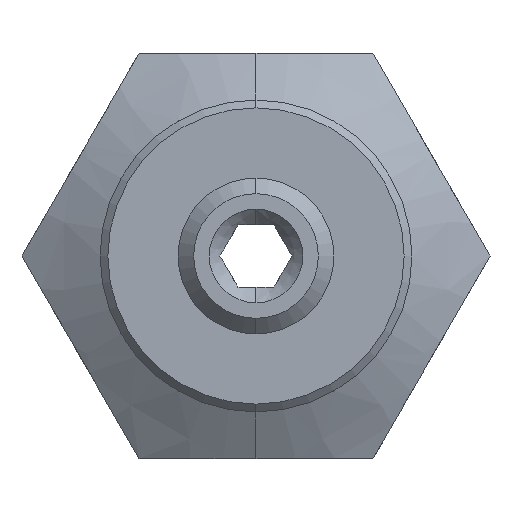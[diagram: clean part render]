
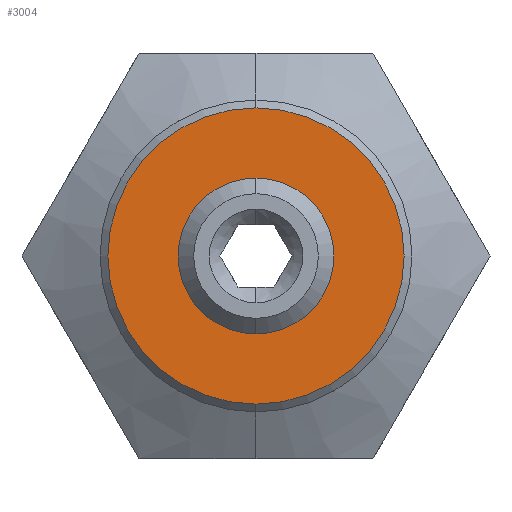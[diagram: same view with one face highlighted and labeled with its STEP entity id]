
A CAD part, front view. The second image highlights one B-rep face of the part: STEP entity #3004.
In plain terms, the highlighted planar face has unit normal (0, -1, 0).
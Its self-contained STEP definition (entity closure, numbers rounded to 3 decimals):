
#38 = CIRCLE ( 'NONE', #2584, 2.5 ) ;
#166 = ORIENTED_EDGE ( 'NONE', *, *, #1763, .T. ) ;
#426 = ORIENTED_EDGE ( 'NONE', *, *, #1245, .F. ) ;
#466 = DIRECTION ( 'NONE',  ( 0., 1., 0. ) ) ;
#552 = CARTESIAN_POINT ( 'NONE',  ( 0., 0., 0. ) ) ;
#626 = CARTESIAN_POINT ( 'NONE',  ( 0., 0., 0. ) ) ;
#691 = CARTESIAN_POINT ( 'NONE',  ( 0., 0., 0. ) ) ;
#738 = DIRECTION ( 'NONE',  ( 0., -1., 0. ) ) ;
#915 = VERTEX_POINT ( 'NONE', #2216 ) ;
#1016 = AXIS2_PLACEMENT_3D ( 'NONE', #1265, #1908, #2201 ) ;
#1245 = EDGE_CURVE ( 'NONE', #2402, #1869, #38, .T. ) ;
#1265 = CARTESIAN_POINT ( 'NONE',  ( 0., 0., 0. ) ) ;
#1338 = AXIS2_PLACEMENT_3D ( 'NONE', #691, #2889, #1476 ) ;
#1400 = ORIENTED_EDGE ( 'NONE', *, *, #2586, .F. ) ;
#1461 = EDGE_LOOP ( 'NONE', ( #426, #1400 ) ) ;
#1476 = DIRECTION ( 'NONE',  ( 0., 0., 1. ) ) ;
#1560 = CIRCLE ( 'NONE', #1016, 4.75 ) ;
#1622 = AXIS2_PLACEMENT_3D ( 'NONE', #552, #738, #1769 ) ;
#1686 = DIRECTION ( 'NONE',  ( 0., -1., 0. ) ) ;
#1763 = EDGE_CURVE ( 'NONE', #915, #2078, #1560, .T. ) ;
#1769 = DIRECTION ( 'NONE',  ( 0., 0., -1. ) ) ;
#1869 = VERTEX_POINT ( 'NONE', #3011 ) ;
#1908 = DIRECTION ( 'NONE',  ( 0., -1., 0. ) ) ;
#1912 = CARTESIAN_POINT ( 'NONE',  ( 0., 0., -2.5 ) ) ;
#1932 = DIRECTION ( 'NONE',  ( 0., 0., 1. ) ) ;
#1964 = AXIS2_PLACEMENT_3D ( 'NONE', #2191, #466, #1932 ) ;
#2078 = VERTEX_POINT ( 'NONE', #2316 ) ;
#2161 = DIRECTION ( 'NONE',  ( 0., 0., 1. ) ) ;
#2191 = CARTESIAN_POINT ( 'NONE',  ( 3.572, 0., 0. ) ) ;
#2201 = DIRECTION ( 'NONE',  ( 0., 0., -1. ) ) ;
#2216 = CARTESIAN_POINT ( 'NONE',  ( 0., 0., -4.75 ) ) ;
#2275 = EDGE_CURVE ( 'NONE', #2078, #915, #2987, .T. ) ;
#2306 = CIRCLE ( 'NONE', #1338, 2.5 ) ;
#2316 = CARTESIAN_POINT ( 'NONE',  ( 0., 0., 4.75 ) ) ;
#2402 = VERTEX_POINT ( 'NONE', #1912 ) ;
#2405 = FACE_BOUND ( 'NONE', #1461, .T. ) ;
#2511 = EDGE_LOOP ( 'NONE', ( #2541, #166 ) ) ;
#2541 = ORIENTED_EDGE ( 'NONE', *, *, #2275, .T. ) ;
#2584 = AXIS2_PLACEMENT_3D ( 'NONE', #626, #1686, #2161 ) ;
#2586 = EDGE_CURVE ( 'NONE', #1869, #2402, #2306, .T. ) ;
#2889 = DIRECTION ( 'NONE',  ( 0., -1., 0. ) ) ;
#2898 = FACE_OUTER_BOUND ( 'NONE', #2511, .T. ) ;
#2987 = CIRCLE ( 'NONE', #1622, 4.75 ) ;
#3004 = ADVANCED_FACE ( 'NONE', ( #2898, #2405 ), #3126, .F. ) ;
#3011 = CARTESIAN_POINT ( 'NONE',  ( 0., 0., 2.5 ) ) ;
#3126 = PLANE ( 'NONE',  #1964 ) ;
